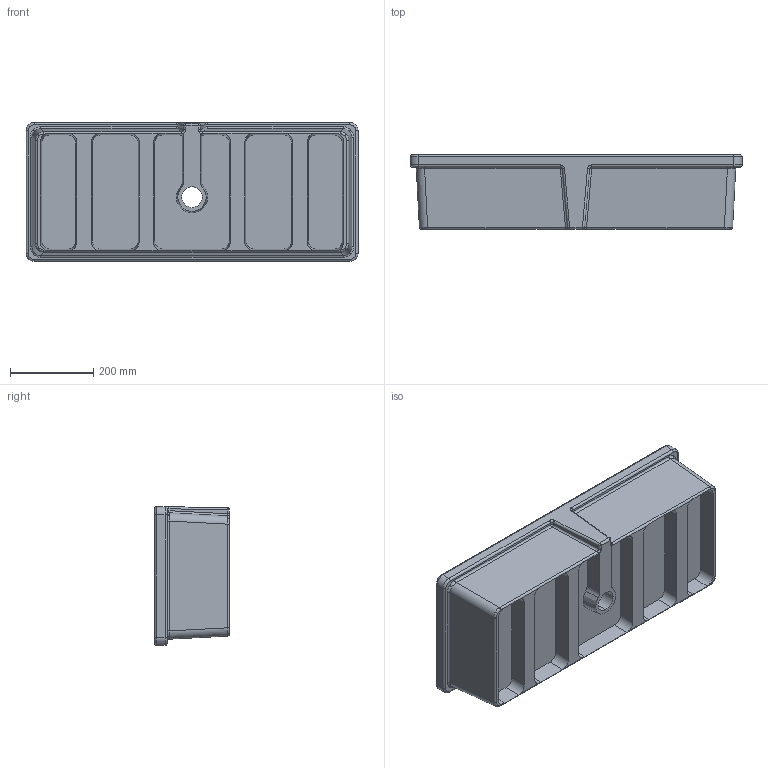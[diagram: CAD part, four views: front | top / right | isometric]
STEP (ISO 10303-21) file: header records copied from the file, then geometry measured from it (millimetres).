
FILE_DESCRIPTION (( 'STEP AP214' ), '1' );
FILE_NAME ('BEN-1507C.STEP', '2020-10-17T03:05:38', ( '' ), ( '' ), 'SwSTEP 2.0', 'SolidWorks 2020', '' );
FILE_SCHEMA (( 'AUTOMOTIVE_DESIGN' ));
Length unit declared in the file: millimetre
Products named in the file (1): BEN-1507C
Bounding box: 800 x 180 x 334.91 mm (x, y, z)
Volume: 10890586.6 mm3; surface area: 1325891.9 mm2
Topology: 1 solids, 1 shells, 209 faces, 547 edges, 340 vertices
Faces by surface type: cylinder 83, plane 69, bspline 45, torus 6, sphere 4, cone 2
Entity records: 7500 total; most frequent: CARTESIAN_POINT 2881, ORIENTED_EDGE 1090, DIRECTION 844, EDGE_CURVE 545, VERTEX_POINT 340, AXIS2_PLACEMENT_3D 298, VECTOR 248, LINE 248
